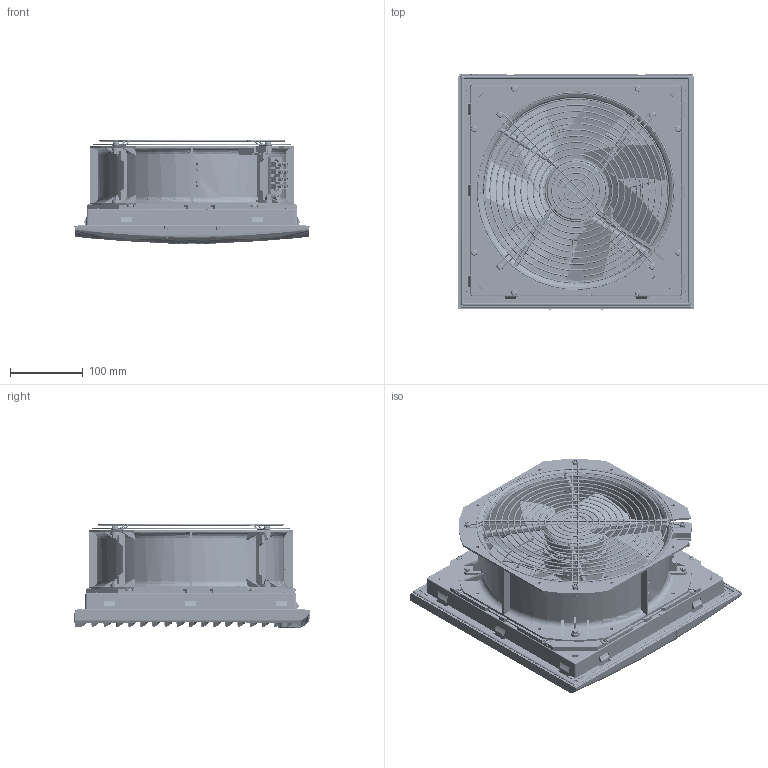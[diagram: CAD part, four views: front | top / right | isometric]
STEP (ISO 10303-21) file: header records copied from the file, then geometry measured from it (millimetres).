
FILE_DESCRIPTION(/* description */ (''),/* implementation_level */ '2;1');
FILE_NAME(/* name */ 'LK3243-1.stp',/* time_stamp */ '2019-05-16T08:59:30+08:00',/* author */ (''),/* organization */ (''),/* preprocessor_version */ 'ST-DEVELOPER v14',/* originating_system */ 'SIEMENS PLM Software NX 8.0',/* authorisation */ '');
FILE_SCHEMA (('AUTOMOTIVE_DESIGN { 1 0 10303 214 3 1 1 1 }'));
Length unit declared in the file: millimetre
Products named in the file (1): Admi170C7B08klcm
Bounding box: 322.5 x 322.91 x 142.24 mm (x, y, z)
Volume: 2488398 mm3; surface area: 1302904.4 mm2
Topology: 34 solids, 34 shells, 6907 faces, 20770 edges, 13558 vertices
Faces by surface type: plane 1961, bspline 1486, cylinder 1046, sphere 865, cone 798, torus 532, extrusion 219
Full cylindrical faces by diameter (mm): 0.681 x1, 1.98 x8, 2 x8, 3.5 x16, 4 x2, 4.3 x8, 4.5 x39, 4.9 x4, 5 x1, 5.3 x8, 5.4 x12, 5.5 x8, 5.6 x2, 8 x1, 8.5 x16, 9 x17, 9.7 x3, 38 x1, 43 x1, 80 x1, 82 x1, 86 x2, 90 x1
Entity records: 416242 total; most frequent: CARTESIAN_POINT 263473, ORIENTED_EDGE 35482, DIRECTION 23301, EDGE_CURVE 17741, VERTEX_POINT 11745, B_SPLINE_CURVE_WITH_KNOTS 9236, AXIS2_PLACEMENT_3D 9197, EDGE_LOOP 8366
